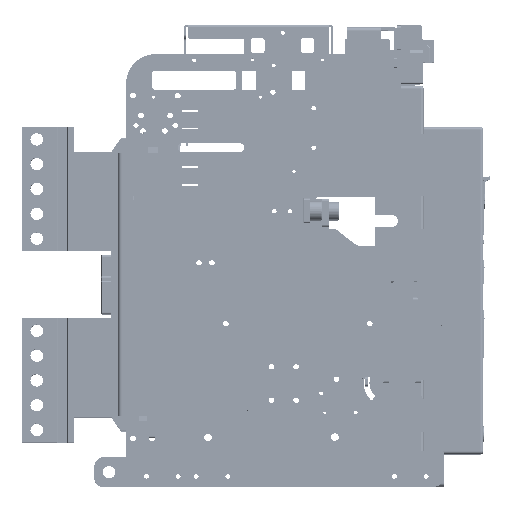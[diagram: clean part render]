
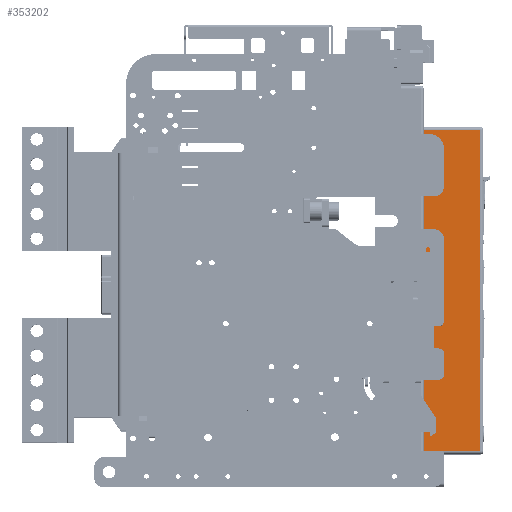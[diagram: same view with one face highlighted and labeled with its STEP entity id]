
A CAD part, top view. The second image highlights one B-rep face of the part: STEP entity #353202.
In plain terms, the highlighted planar face has unit normal (0, 0, 1) as drawn and (-1, 0, 0) by its records, which use the part's own axes.
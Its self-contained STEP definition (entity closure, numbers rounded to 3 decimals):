
#332923=DIRECTION('',(0.,0.,-1.));
#332924=VECTOR('',#332923,57.);
#332925=CARTESIAN_POINT('',(-135.,-175.65,106.));
#332926=LINE('',#332925,#332924);
#332927=DIRECTION('',(0.,0.,-1.));
#332928=VECTOR('',#332927,57.);
#332929=CARTESIAN_POINT('',(-135.,148.35,106.));
#332930=LINE('',#332929,#332928);
#332931=DIRECTION('',(0.,-1.,0.));
#332932=VECTOR('',#332931,324.);
#332933=CARTESIAN_POINT('',(-135.,148.35,106.));
#332934=LINE('',#332933,#332932);
#333236=DIRECTION('',(0.,-1.,0.));
#333237=VECTOR('',#333236,324.);
#333238=CARTESIAN_POINT('',(-135.,148.35,49.));
#333239=LINE('',#333238,#333237);
#347196=CARTESIAN_POINT('',(-135.,-175.65,106.));
#347198=VERTEX_POINT('',#347196);
#347222=CARTESIAN_POINT('',(-135.,-175.65,49.));
#347223=VERTEX_POINT('',#347222);
#347226=CARTESIAN_POINT('',(-135.,148.35,106.));
#347227=VERTEX_POINT('',#347226);
#347244=CARTESIAN_POINT('',(-135.,148.35,49.));
#347245=VERTEX_POINT('',#347244);
#353188=CARTESIAN_POINT('',(-135.,151.35,49.));
#353189=DIRECTION('',(-1.,0.,0.));
#353190=DIRECTION('',(0.,-1.,0.));
#353191=AXIS2_PLACEMENT_3D('',#353188,#353189,#353190);
#353192=PLANE('',#353191);
#353194=ORIENTED_EDGE('',*,*,#353193,.T.);
#353196=ORIENTED_EDGE('',*,*,#353195,.F.);
#353198=ORIENTED_EDGE('',*,*,#353197,.F.);
#353199=ORIENTED_EDGE('',*,*,#353180,.T.);
#353200=EDGE_LOOP('',(#353194,#353196,#353198,#353199));
#353201=FACE_OUTER_BOUND('',#353200,.F.);
#353202=ADVANCED_FACE('',(#353201),#353192,.T.);
#353180=EDGE_CURVE('',#347227,#347198,#332934,.T.);
#353193=EDGE_CURVE('',#347198,#347223,#332926,.T.);
#353195=EDGE_CURVE('',#347245,#347223,#333239,.T.);
#353197=EDGE_CURVE('',#347227,#347245,#332930,.T.);
